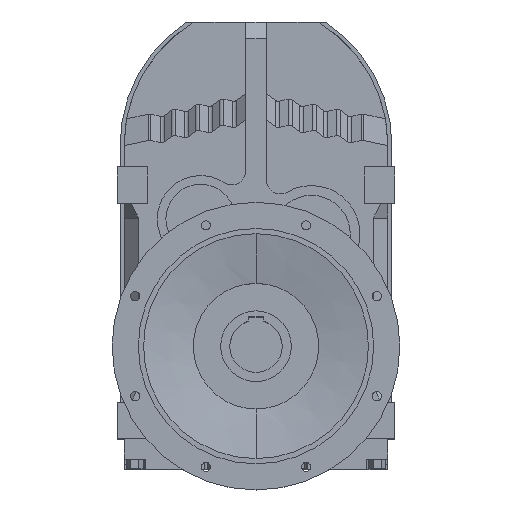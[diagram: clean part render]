
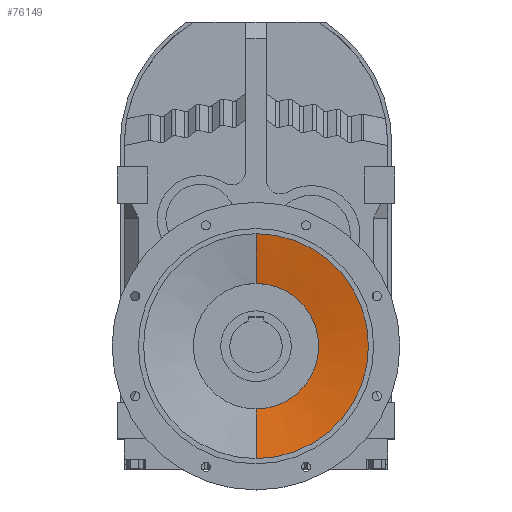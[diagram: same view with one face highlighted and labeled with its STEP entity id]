
A CAD part, top view. The second image highlights one B-rep face of the part: STEP entity #76149.
In plain terms, the highlighted conical face has half-angle 78.98 degrees and reference radius 215 mm.
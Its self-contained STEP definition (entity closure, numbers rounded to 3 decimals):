
#75795 = CYLINDRICAL_SURFACE('',#75796,215.);
#75796 = AXIS2_PLACEMENT_3D('',#75797,#75798,#75799);
#75797 = CARTESIAN_POINT('',(0.,-382.6,0.));
#75798 = DIRECTION('',(0.,0.,-1.));
#75799 = DIRECTION('',(0.,1.,0.));
#75943 = VERTEX_POINT('',#75944);
#75944 = CARTESIAN_POINT('',(0.,-597.6,414.));
#75963 = EDGE_CURVE('',#75964,#75943,#75966,.T.);
#75964 = VERTEX_POINT('',#75965);
#75965 = CARTESIAN_POINT('',(0.,-167.6,414.));
#75966 = SURFACE_CURVE('',#75967,(#75972,#75978),.PCURVE_S1.);
#75967 = CIRCLE('',#75968,215.);
#75968 = AXIS2_PLACEMENT_3D('',#75969,#75970,#75971);
#75969 = CARTESIAN_POINT('',(0.,-382.6,414.));
#75970 = DIRECTION('',(0.,0.,-1.));
#75971 = DIRECTION('',(0.,1.,0.));
#75972 = PCURVE('',#75795,#75973);
#75973 = DEFINITIONAL_REPRESENTATION('',(#75974),#75977);
#75974 = B_SPLINE_CURVE_WITH_KNOTS('',1,(#75975,#75976),.UNSPECIFIED.,
  .F.,.F.,(2,2),(0.,3.142),.PIECEWISE_BEZIER_KNOTS.);
#75975 = CARTESIAN_POINT('',(0.,-414.));
#75976 = CARTESIAN_POINT('',(3.142,-414.));
#75977 = ( GEOMETRIC_REPRESENTATION_CONTEXT(2) 
PARAMETRIC_REPRESENTATION_CONTEXT() REPRESENTATION_CONTEXT('2D SPACE',''
  ) );
#75978 = PCURVE('',#75979,#75984);
#75979 = CONICAL_SURFACE('',#75980,215.,1.378);
#75980 = AXIS2_PLACEMENT_3D('',#75981,#75982,#75983);
#75981 = CARTESIAN_POINT('',(0.,-382.6,414.));
#75982 = DIRECTION('',(0.,0.,1.));
#75983 = DIRECTION('',(0.,-1.,0.));
#75984 = DEFINITIONAL_REPRESENTATION('',(#75985),#76011);
#75985 = B_SPLINE_CURVE_WITH_KNOTS('',3,(#75986,#75987,#75988,#75989,
    #75990,#75991,#75992,#75993,#75994,#75995,#75996,#75997,#75998,
    #75999,#76000,#76001,#76002,#76003,#76004,#76005,#76006,#76007,
    #76008,#76009,#76010),.UNSPECIFIED.,.F.,.F.,(4,1,1,1,1,1,1,1,1,1,1,1
    ,1,1,1,1,1,1,1,1,1,1,4),(0.,0.143,0.286,
    0.428,0.571,0.714,0.857,
    1.,1.142,1.285,1.428,
    1.571,1.714,1.856,1.999,
    2.142,2.285,2.428,2.57,
    2.713,2.856,2.999,3.142),
  .QUASI_UNIFORM_KNOTS.);
#75986 = CARTESIAN_POINT('',(3.142,0.));
#75987 = CARTESIAN_POINT('',(3.094,0.));
#75988 = CARTESIAN_POINT('',(2.999,0.));
#75989 = CARTESIAN_POINT('',(2.856,0.));
#75990 = CARTESIAN_POINT('',(2.713,0.));
#75991 = CARTESIAN_POINT('',(2.57,0.));
#75992 = CARTESIAN_POINT('',(2.428,0.));
#75993 = CARTESIAN_POINT('',(2.285,0.));
#75994 = CARTESIAN_POINT('',(2.142,0.));
#75995 = CARTESIAN_POINT('',(1.999,0.));
#75996 = CARTESIAN_POINT('',(1.856,0.));
#75997 = CARTESIAN_POINT('',(1.714,0.));
#75998 = CARTESIAN_POINT('',(1.571,0.));
#75999 = CARTESIAN_POINT('',(1.428,0.));
#76000 = CARTESIAN_POINT('',(1.285,0.));
#76001 = CARTESIAN_POINT('',(1.142,0.));
#76002 = CARTESIAN_POINT('',(1.,0.));
#76003 = CARTESIAN_POINT('',(0.857,0.));
#76004 = CARTESIAN_POINT('',(0.714,0.));
#76005 = CARTESIAN_POINT('',(0.571,0.));
#76006 = CARTESIAN_POINT('',(0.428,0.));
#76007 = CARTESIAN_POINT('',(0.286,0.));
#76008 = CARTESIAN_POINT('',(0.143,0.));
#76009 = CARTESIAN_POINT('',(0.048,0.));
#76010 = CARTESIAN_POINT('',(0.,0.));
#76011 = ( GEOMETRIC_REPRESENTATION_CONTEXT(2) 
PARAMETRIC_REPRESENTATION_CONTEXT() REPRESENTATION_CONTEXT('2D SPACE',''
  ) );
#76052 = CONICAL_SURFACE('',#76053,215.,1.378);
#76053 = AXIS2_PLACEMENT_3D('',#76054,#76055,#76056);
#76054 = CARTESIAN_POINT('',(0.,-382.6,414.));
#76055 = DIRECTION('',(0.,0.,1.));
#76056 = DIRECTION('',(0.,-1.,0.));
#76113 = CYLINDRICAL_SURFACE('',#76114,120.);
#76114 = AXIS2_PLACEMENT_3D('',#76115,#76116,#76117);
#76115 = CARTESIAN_POINT('',(0.,-382.6,0.));
#76116 = DIRECTION('',(0.,0.,-1.));
#76117 = DIRECTION('',(0.,1.,0.));
#76149 = ADVANCED_FACE('',(#76150),#75979,.F.);
#76150 = FACE_BOUND('',#76151,.F.);
#76151 = EDGE_LOOP('',(#76152,#76173,#76174,#76195));
#76152 = ORIENTED_EDGE('',*,*,#76153,.T.);
#76153 = EDGE_CURVE('',#76154,#75964,#76156,.T.);
#76154 = VERTEX_POINT('',#76155);
#76155 = CARTESIAN_POINT('',(0.,-262.6,395.5));
#76156 = SURFACE_CURVE('',#76157,(#76161,#76167),.PCURVE_S1.);
#76157 = LINE('',#76158,#76159);
#76158 = CARTESIAN_POINT('',(0.,-167.6,414.));
#76159 = VECTOR('',#76160,1.);
#76160 = DIRECTION('',(0.,0.982,0.191)
  );
#76161 = PCURVE('',#75979,#76162);
#76162 = DEFINITIONAL_REPRESENTATION('',(#76163),#76166);
#76163 = B_SPLINE_CURVE_WITH_KNOTS('',1,(#76164,#76165),.UNSPECIFIED.,
  .F.,.F.,(2,2),(-96.785,0.),
  .PIECEWISE_BEZIER_KNOTS.);
#76164 = CARTESIAN_POINT('',(3.142,-18.5));
#76165 = CARTESIAN_POINT('',(3.142,0.));
#76166 = ( GEOMETRIC_REPRESENTATION_CONTEXT(2) 
PARAMETRIC_REPRESENTATION_CONTEXT() REPRESENTATION_CONTEXT('2D SPACE',''
  ) );
#76167 = PCURVE('',#76052,#76168);
#76168 = DEFINITIONAL_REPRESENTATION('',(#76169),#76172);
#76169 = B_SPLINE_CURVE_WITH_KNOTS('',1,(#76170,#76171),.UNSPECIFIED.,
  .F.,.F.,(2,2),(-96.785,0.),
  .PIECEWISE_BEZIER_KNOTS.);
#76170 = CARTESIAN_POINT('',(3.142,-18.5));
#76171 = CARTESIAN_POINT('',(3.142,0.));
#76172 = ( GEOMETRIC_REPRESENTATION_CONTEXT(2) 
PARAMETRIC_REPRESENTATION_CONTEXT() REPRESENTATION_CONTEXT('2D SPACE',''
  ) );
#76173 = ORIENTED_EDGE('',*,*,#75963,.T.);
#76174 = ORIENTED_EDGE('',*,*,#76175,.F.);
#76175 = EDGE_CURVE('',#76176,#75943,#76178,.T.);
#76176 = VERTEX_POINT('',#76177);
#76177 = CARTESIAN_POINT('',(0.,-502.6,395.5));
#76178 = SURFACE_CURVE('',#76179,(#76183,#76189),.PCURVE_S1.);
#76179 = LINE('',#76180,#76181);
#76180 = CARTESIAN_POINT('',(0.,-597.6,414.));
#76181 = VECTOR('',#76182,1.);
#76182 = DIRECTION('',(0.,-0.982,0.191));
#76183 = PCURVE('',#75979,#76184);
#76184 = DEFINITIONAL_REPRESENTATION('',(#76185),#76188);
#76185 = B_SPLINE_CURVE_WITH_KNOTS('',1,(#76186,#76187),.UNSPECIFIED.,
  .F.,.F.,(2,2),(-96.785,0.),
  .PIECEWISE_BEZIER_KNOTS.);
#76186 = CARTESIAN_POINT('',(0.,-18.5));
#76187 = CARTESIAN_POINT('',(0.,0.));
#76188 = ( GEOMETRIC_REPRESENTATION_CONTEXT(2) 
PARAMETRIC_REPRESENTATION_CONTEXT() REPRESENTATION_CONTEXT('2D SPACE',''
  ) );
#76189 = PCURVE('',#76052,#76190);
#76190 = DEFINITIONAL_REPRESENTATION('',(#76191),#76194);
#76191 = B_SPLINE_CURVE_WITH_KNOTS('',1,(#76192,#76193),.UNSPECIFIED.,
  .F.,.F.,(2,2),(-96.785,0.),
  .PIECEWISE_BEZIER_KNOTS.);
#76192 = CARTESIAN_POINT('',(6.283,-18.5));
#76193 = CARTESIAN_POINT('',(6.283,0.));
#76194 = ( GEOMETRIC_REPRESENTATION_CONTEXT(2) 
PARAMETRIC_REPRESENTATION_CONTEXT() REPRESENTATION_CONTEXT('2D SPACE',''
  ) );
#76195 = ORIENTED_EDGE('',*,*,#76196,.F.);
#76196 = EDGE_CURVE('',#76154,#76176,#76197,.T.);
#76197 = SURFACE_CURVE('',#76198,(#76203,#76232),.PCURVE_S1.);
#76198 = CIRCLE('',#76199,120.);
#76199 = AXIS2_PLACEMENT_3D('',#76200,#76201,#76202);
#76200 = CARTESIAN_POINT('',(0.,-382.6,395.5));
#76201 = DIRECTION('',(0.,0.,-1.));
#76202 = DIRECTION('',(0.,1.,0.));
#76203 = PCURVE('',#75979,#76204);
#76204 = DEFINITIONAL_REPRESENTATION('',(#76205),#76231);
#76205 = B_SPLINE_CURVE_WITH_KNOTS('',3,(#76206,#76207,#76208,#76209,
    #76210,#76211,#76212,#76213,#76214,#76215,#76216,#76217,#76218,
    #76219,#76220,#76221,#76222,#76223,#76224,#76225,#76226,#76227,
    #76228,#76229,#76230),.UNSPECIFIED.,.F.,.F.,(4,1,1,1,1,1,1,1,1,1,1,1
    ,1,1,1,1,1,1,1,1,1,1,4),(0.,0.143,0.286,
    0.428,0.571,0.714,0.857,
    1.,1.142,1.285,1.428,
    1.571,1.714,1.856,1.999,
    2.142,2.285,2.428,2.57,
    2.713,2.856,2.999,3.142),
  .QUASI_UNIFORM_KNOTS.);
#76206 = CARTESIAN_POINT('',(3.142,-18.5));
#76207 = CARTESIAN_POINT('',(3.094,-18.5));
#76208 = CARTESIAN_POINT('',(2.999,-18.5));
#76209 = CARTESIAN_POINT('',(2.856,-18.5));
#76210 = CARTESIAN_POINT('',(2.713,-18.5));
#76211 = CARTESIAN_POINT('',(2.57,-18.5));
#76212 = CARTESIAN_POINT('',(2.428,-18.5));
#76213 = CARTESIAN_POINT('',(2.285,-18.5));
#76214 = CARTESIAN_POINT('',(2.142,-18.5));
#76215 = CARTESIAN_POINT('',(1.999,-18.5));
#76216 = CARTESIAN_POINT('',(1.856,-18.5));
#76217 = CARTESIAN_POINT('',(1.714,-18.5));
#76218 = CARTESIAN_POINT('',(1.571,-18.5));
#76219 = CARTESIAN_POINT('',(1.428,-18.5));
#76220 = CARTESIAN_POINT('',(1.285,-18.5));
#76221 = CARTESIAN_POINT('',(1.142,-18.5));
#76222 = CARTESIAN_POINT('',(1.,-18.5));
#76223 = CARTESIAN_POINT('',(0.857,-18.5));
#76224 = CARTESIAN_POINT('',(0.714,-18.5));
#76225 = CARTESIAN_POINT('',(0.571,-18.5));
#76226 = CARTESIAN_POINT('',(0.428,-18.5));
#76227 = CARTESIAN_POINT('',(0.286,-18.5));
#76228 = CARTESIAN_POINT('',(0.143,-18.5));
#76229 = CARTESIAN_POINT('',(0.048,-18.5));
#76230 = CARTESIAN_POINT('',(0.,-18.5));
#76231 = ( GEOMETRIC_REPRESENTATION_CONTEXT(2) 
PARAMETRIC_REPRESENTATION_CONTEXT() REPRESENTATION_CONTEXT('2D SPACE',''
  ) );
#76232 = PCURVE('',#76113,#76233);
#76233 = DEFINITIONAL_REPRESENTATION('',(#76234),#76237);
#76234 = B_SPLINE_CURVE_WITH_KNOTS('',1,(#76235,#76236),.UNSPECIFIED.,
  .F.,.F.,(2,2),(0.,3.142),.PIECEWISE_BEZIER_KNOTS.);
#76235 = CARTESIAN_POINT('',(0.,-395.5));
#76236 = CARTESIAN_POINT('',(3.142,-395.5));
#76237 = ( GEOMETRIC_REPRESENTATION_CONTEXT(2) 
PARAMETRIC_REPRESENTATION_CONTEXT() REPRESENTATION_CONTEXT('2D SPACE',''
  ) );
